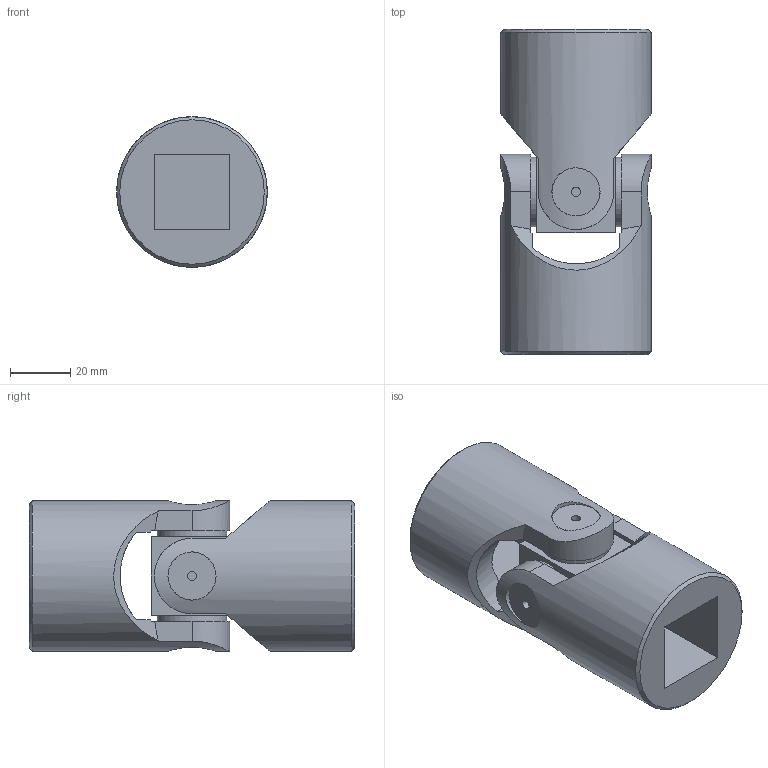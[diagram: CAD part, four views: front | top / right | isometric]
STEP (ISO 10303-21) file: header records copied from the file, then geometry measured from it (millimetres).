
FILE_DESCRIPTION(/* description */ (''),/* implementation_level */ '2;1');
FILE_NAME(/* name */ '\\SRV2016\Societa\Stefano\Disegni 3D\Dis. Clienti\0000Catalogo 3D\01Singoli G-GB\5G-2Q_SG0S252Q.stp',/* time_stamp */ '2021-11-10T11:11:04+01:00',/* author */ ('acquisti'),/* organization */ (''),/* preprocessor_version */ 'ST-DEVELOPER v15.6',/* originating_system */ 'Autodesk Inventor 2015',/* authorisation */ '');
FILE_SCHEMA (('AUTOMOTIVE_DESIGN { 1 0 10303 214 3 1 1 }'));
Length unit declared in the file: millimetre
Products named in the file (3): 5G SFE; 5G MOQ; Assieme1
Assembly tree (3 placements, depth 2):
  Assieme1
    5G SFE
    5G MOQ  x2
Bounding box: 50 x 108 x 50 mm (x, y, z)
Volume: 135090.6 mm3; surface area: 34526.2 mm2
Topology: 3 solids, 3 shells, 90 faces, 228 edges, 154 vertices
Faces by surface type: plane 44, cylinder 26, cone 18, torus 2
Full cylindrical faces by diameter (mm): 3 x4, 16 x4, 23 x4, 50 x2
Entity records: 1757 total; most frequent: CARTESIAN_POINT 553, ORIENTED_EDGE 230, DIRECTION 228, EDGE_CURVE 115, AXIS2_PLACEMENT_3D 94, VERTEX_POINT 85, EDGE_LOOP 72, FACE_OUTER_BOUND 52
